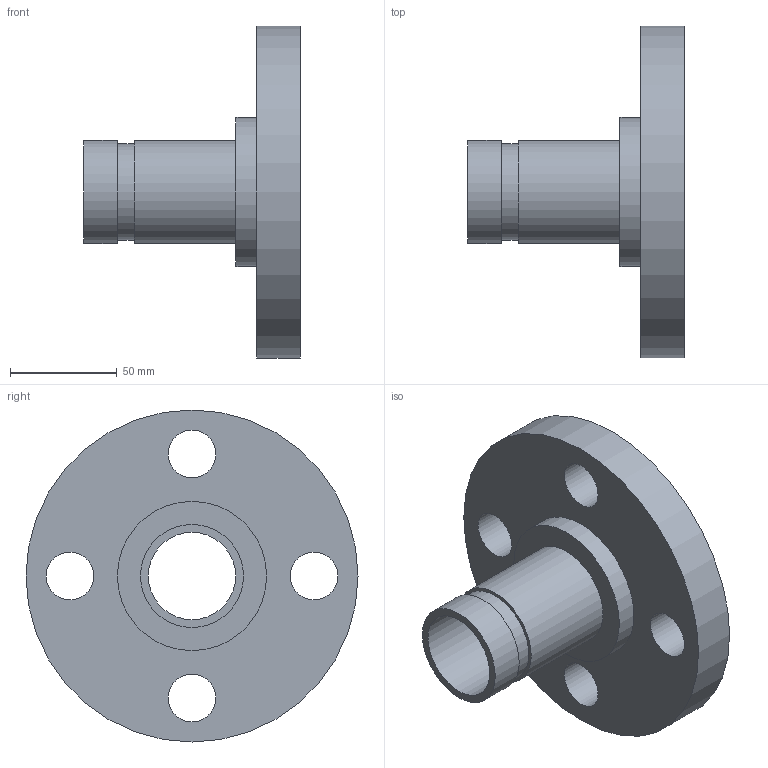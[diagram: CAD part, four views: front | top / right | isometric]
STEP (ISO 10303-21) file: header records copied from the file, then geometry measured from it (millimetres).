
FILE_DESCRIPTION(/* description */ ('VIC FLANGE ADAPTER No 46F','CAx-IF Rec.Pracs.---Representation and Presentation of Product Manufacturing Information (PMI)---4.0---2014-10-13'),/* implementation_level */ '2;1');
FILE_NAME(/* name */ 'C:\Users\kkamble\AppData\Roaming\Autodesk\ApplicationPlugins\Back Up\Victaulic_IPS_Flanged Adapter Nipple_CL 300 FF_No 46F (OGSxFLG)\Victaulic_IPS_Flanged Adapter Nipple_CL 300 FF_No 46F (OGSxFLG)_1.5 (40).stp',/* time_stamp */ '2020-07-26T22:24:38+06:00',/* author */ ('CONSTRUCTION PIPING SERVICES'),/* organization */ ('Victaulic'),/* preprocessor_version */ 'ST-DEVELOPER v17.2',/* originating_system */ 'Autodesk Inventor 2019',/* authorisation */ '');
FILE_SCHEMA (('AP242_MANAGED_MODEL_BASED_3D_ENGINEERING_MIM_LF { 1 0 10303 442 1 1 4 }'));
Length unit declared in the file: inch
Products named in the file (1): 046F-01.5
Bounding box: 101.6 x 155.45 x 155.45 mm (x, y, z)
Volume: 390418.5 mm3; surface area: 74395.4 mm2
Topology: 1 solids, 1 shells, 16 faces, 42 edges, 32 vertices
Faces by surface type: cylinder 10, plane 6
Full cylindrical faces by diameter (mm): 22.352 x4, 40.894 x1, 45.085 x1, 48.26 x2, 69.85 x1, 155.448 x1
Entity records: 622 total; most frequent: DIRECTION 108, CARTESIAN_POINT 91, ORIENTED_EDGE 84, AXIS2_PLACEMENT_3D 49, EDGE_CURVE 42, CIRCLE 32, VERTEX_POINT 32, EDGE_LOOP 30
